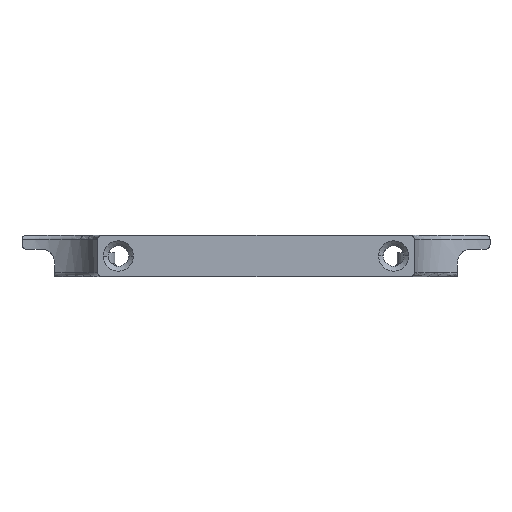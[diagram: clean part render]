
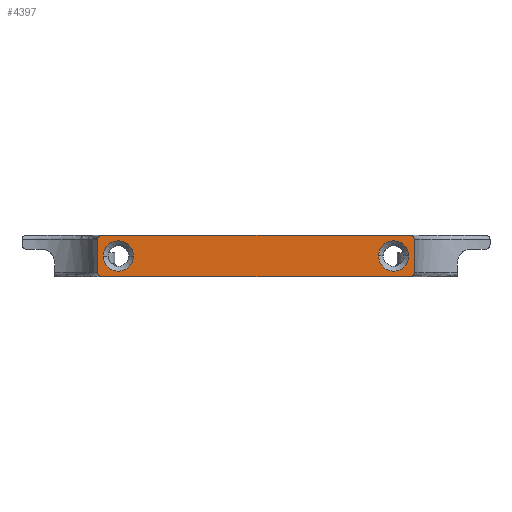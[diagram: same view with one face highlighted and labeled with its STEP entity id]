
A CAD part, front view. The second image highlights one B-rep face of the part: STEP entity #4397.
In plain terms, the highlighted planar face has unit normal (0, -1, 0) as drawn and (1, 0, 0) by its records, which use the part's own axes.
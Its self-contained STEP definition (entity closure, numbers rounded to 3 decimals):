
#24 = AXIS2_PLACEMENT_3D ( 'NONE', #6860, #7335, #5136 ) ;
#154 = CIRCLE ( 'NONE', #6460, 2.2 ) ;
#181 = EDGE_CURVE ( 'NONE', #4836, #3775, #3355, .T. ) ;
#193 = CARTESIAN_POINT ( 'NONE',  ( 40., -2.4, 23. ) ) ;
#241 = CARTESIAN_POINT ( 'NONE',  ( 40., 3., 34. ) ) ;
#242 = FACE_OUTER_BOUND ( 'NONE', #1788, .T. ) ;
#248 = DIRECTION ( 'NONE',  ( 0., 0., -1. ) ) ;
#307 = CARTESIAN_POINT ( 'NONE',  ( 40., -3., 23. ) ) ;
#335 = ORIENTED_EDGE ( 'NONE', *, *, #1369, .T. ) ;
#395 = ORIENTED_EDGE ( 'NONE', *, *, #2877, .T. ) ;
#420 = CIRCLE ( 'NONE', #6233, 0.6 ) ;
#486 = CARTESIAN_POINT ( 'NONE',  ( 40., 0., -20. ) ) ;
#516 = DIRECTION ( 'NONE',  ( -1., 0., 0. ) ) ;
#655 = CIRCLE ( 'NONE', #6638, 2.2 ) ;
#916 = EDGE_CURVE ( 'NONE', #6066, #2643, #7122, .T. ) ;
#936 = VERTEX_POINT ( 'NONE', #193 ) ;
#948 = VERTEX_POINT ( 'NONE', #1342 ) ;
#955 = VERTEX_POINT ( 'NONE', #6968 ) ;
#995 = DIRECTION ( 'NONE',  ( 0., 0., -1. ) ) ;
#1117 = ORIENTED_EDGE ( 'NONE', *, *, #2171, .T. ) ;
#1119 = DIRECTION ( 'NONE',  ( 0., 0., -1. ) ) ;
#1175 = DIRECTION ( 'NONE',  ( 0., 0., -1. ) ) ;
#1220 = CARTESIAN_POINT ( 'NONE',  ( 40., 0., 20. ) ) ;
#1239 = CARTESIAN_POINT ( 'NONE',  ( 40., 0., -20. ) ) ;
#1249 = DIRECTION ( 'NONE',  ( 1., 0., 0. ) ) ;
#1270 = VECTOR ( 'NONE', #5999, 1000. ) ;
#1276 = ORIENTED_EDGE ( 'NONE', *, *, #1389, .F. ) ;
#1342 = CARTESIAN_POINT ( 'NONE',  ( 40., 3., 22.4 ) ) ;
#1369 = EDGE_CURVE ( 'NONE', #955, #1762, #7036, .T. ) ;
#1389 = EDGE_CURVE ( 'NONE', #936, #6507, #5354, .T. ) ;
#1411 = DIRECTION ( 'NONE',  ( -1., 0., 0. ) ) ;
#1434 = FACE_BOUND ( 'NONE', #3769, .T. ) ;
#1508 = EDGE_LOOP ( 'NONE', ( #5612, #1942 ) ) ;
#1762 = VERTEX_POINT ( 'NONE', #2032 ) ;
#1788 = EDGE_LOOP ( 'NONE', ( #5376, #1926, #6980, #1117, #4125, #395, #1276, #3698 ) ) ;
#1815 = DIRECTION ( 'NONE',  ( -1., 0., 0. ) ) ;
#1877 = VERTEX_POINT ( 'NONE', #5643 ) ;
#1926 = ORIENTED_EDGE ( 'NONE', *, *, #181, .T. ) ;
#1942 = ORIENTED_EDGE ( 'NONE', *, *, #4771, .T. ) ;
#1989 = FACE_BOUND ( 'NONE', #1508, .T. ) ;
#2032 = CARTESIAN_POINT ( 'NONE',  ( 40., 0., 17.8 ) ) ;
#2171 = EDGE_CURVE ( 'NONE', #1877, #5279, #420, .T. ) ;
#2425 = CARTESIAN_POINT ( 'NONE',  ( 40., 2.4, 23. ) ) ;
#2440 = DIRECTION ( 'NONE',  ( 0., 1., 0. ) ) ;
#2543 = CIRCLE ( 'NONE', #7277, 0.6 ) ;
#2618 = DIRECTION ( 'NONE',  ( 1., 0., 0. ) ) ;
#2643 = VERTEX_POINT ( 'NONE', #3384 ) ;
#2690 = LINE ( 'NONE', #241, #6168 ) ;
#2695 = CARTESIAN_POINT ( 'NONE',  ( 40., -3., 22.4 ) ) ;
#2826 = EDGE_CURVE ( 'NONE', #6328, #4836, #6661, .T. ) ;
#2874 = LINE ( 'NONE', #4174, #1270 ) ;
#2877 = EDGE_CURVE ( 'NONE', #948, #6507, #4485, .T. ) ;
#2994 = DIRECTION ( 'NONE',  ( 0., 0., -1. ) ) ;
#3196 = CARTESIAN_POINT ( 'NONE',  ( 40., -2.4, 22.4 ) ) ;
#3228 = CARTESIAN_POINT ( 'NONE',  ( 40., 0., -22.2 ) ) ;
#3252 = VECTOR ( 'NONE', #2440, 1000. ) ;
#3258 = ORIENTED_EDGE ( 'NONE', *, *, #5437, .T. ) ;
#3269 = DIRECTION ( 'NONE',  ( 0., 0., -1. ) ) ;
#3325 = VECTOR ( 'NONE', #248, 1000. ) ;
#3355 = CIRCLE ( 'NONE', #7003, 0.6 ) ;
#3384 = CARTESIAN_POINT ( 'NONE',  ( 40., 0., -17.8 ) ) ;
#3491 = CARTESIAN_POINT ( 'NONE',  ( 40., -2.4, -22.4 ) ) ;
#3611 = CARTESIAN_POINT ( 'NONE',  ( 40., 2.4, 22.4 ) ) ;
#3698 = ORIENTED_EDGE ( 'NONE', *, *, #3771, .T. ) ;
#3769 = EDGE_LOOP ( 'NONE', ( #3258, #335 ) ) ;
#3771 = EDGE_CURVE ( 'NONE', #936, #6328, #2543, .T. ) ;
#3775 = VERTEX_POINT ( 'NONE', #3783 ) ;
#3783 = CARTESIAN_POINT ( 'NONE',  ( 40., -2.4, -23. ) ) ;
#3806 = AXIS2_PLACEMENT_3D ( 'NONE', #1239, #1815, #6940 ) ;
#3888 = DIRECTION ( 'NONE',  ( -1., 0., 0. ) ) ;
#3934 = CARTESIAN_POINT ( 'NONE',  ( 40., 2.4, -22.4 ) ) ;
#3938 = CARTESIAN_POINT ( 'NONE',  ( 40., -3., -22.4 ) ) ;
#4125 = ORIENTED_EDGE ( 'NONE', *, *, #5028, .F. ) ;
#4174 = CARTESIAN_POINT ( 'NONE',  ( 40., -3., -23. ) ) ;
#4214 = DIRECTION ( 'NONE',  ( 1., 0., 0. ) ) ;
#4384 = CARTESIAN_POINT ( 'NONE',  ( 40., 0., 20. ) ) ;
#4397 = ADVANCED_FACE ( 'NONE', ( #1434, #1989, #242 ), #4456, .T. ) ;
#4445 = EDGE_CURVE ( 'NONE', #1877, #3775, #2874, .T. ) ;
#4456 = PLANE ( 'NONE',  #24 ) ;
#4480 = AXIS2_PLACEMENT_3D ( 'NONE', #1220, #1411, #2994 ) ;
#4485 = CIRCLE ( 'NONE', #5837, 0.6 ) ;
#4501 = DIRECTION ( 'NONE',  ( 0., 0., -1. ) ) ;
#4594 = CARTESIAN_POINT ( 'NONE',  ( 40., 3., -22.4 ) ) ;
#4755 = DIRECTION ( 'NONE',  ( 0., 0., -1. ) ) ;
#4771 = EDGE_CURVE ( 'NONE', #2643, #6066, #154, .T. ) ;
#4836 = VERTEX_POINT ( 'NONE', #3938 ) ;
#5028 = EDGE_CURVE ( 'NONE', #948, #5279, #2690, .T. ) ;
#5136 = DIRECTION ( 'NONE',  ( 0., 0., -1. ) ) ;
#5222 = DIRECTION ( 'NONE',  ( 1., 0., 0. ) ) ;
#5279 = VERTEX_POINT ( 'NONE', #4594 ) ;
#5317 = CARTESIAN_POINT ( 'NONE',  ( 40., -3., 34. ) ) ;
#5354 = LINE ( 'NONE', #307, #3252 ) ;
#5376 = ORIENTED_EDGE ( 'NONE', *, *, #2826, .T. ) ;
#5437 = EDGE_CURVE ( 'NONE', #1762, #955, #655, .T. ) ;
#5612 = ORIENTED_EDGE ( 'NONE', *, *, #916, .T. ) ;
#5643 = CARTESIAN_POINT ( 'NONE',  ( 40., 2.4, -23. ) ) ;
#5837 = AXIS2_PLACEMENT_3D ( 'NONE', #3611, #4214, #5992 ) ;
#5992 = DIRECTION ( 'NONE',  ( 0., 0., -1. ) ) ;
#5999 = DIRECTION ( 'NONE',  ( 0., -1., 0. ) ) ;
#6066 = VERTEX_POINT ( 'NONE', #3228 ) ;
#6168 = VECTOR ( 'NONE', #4755, 1000. ) ;
#6233 = AXIS2_PLACEMENT_3D ( 'NONE', #3934, #5222, #1119 ) ;
#6328 = VERTEX_POINT ( 'NONE', #2695 ) ;
#6460 = AXIS2_PLACEMENT_3D ( 'NONE', #486, #516, #4501 ) ;
#6507 = VERTEX_POINT ( 'NONE', #2425 ) ;
#6638 = AXIS2_PLACEMENT_3D ( 'NONE', #4384, #3888, #995 ) ;
#6661 = LINE ( 'NONE', #5317, #3325 ) ;
#6860 = CARTESIAN_POINT ( 'NONE',  ( 40., -3., 34. ) ) ;
#6940 = DIRECTION ( 'NONE',  ( 0., 0., -1. ) ) ;
#6968 = CARTESIAN_POINT ( 'NONE',  ( 40., 0., 22.2 ) ) ;
#6980 = ORIENTED_EDGE ( 'NONE', *, *, #4445, .F. ) ;
#7003 = AXIS2_PLACEMENT_3D ( 'NONE', #3491, #1249, #1175 ) ;
#7036 = CIRCLE ( 'NONE', #4480, 2.2 ) ;
#7122 = CIRCLE ( 'NONE', #3806, 2.2 ) ;
#7277 = AXIS2_PLACEMENT_3D ( 'NONE', #3196, #2618, #3269 ) ;
#7335 = DIRECTION ( 'NONE',  ( 1., 0., 0. ) ) ;
